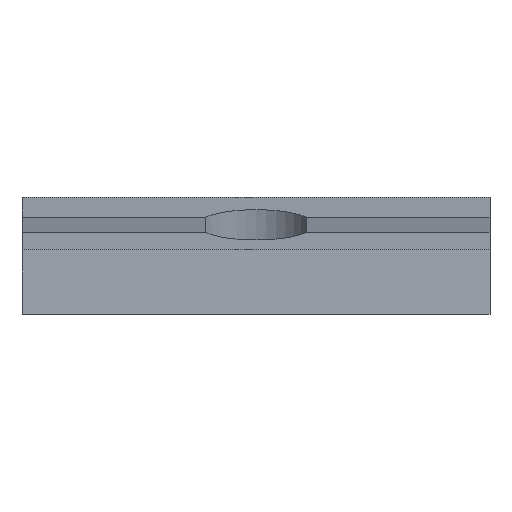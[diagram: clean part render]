
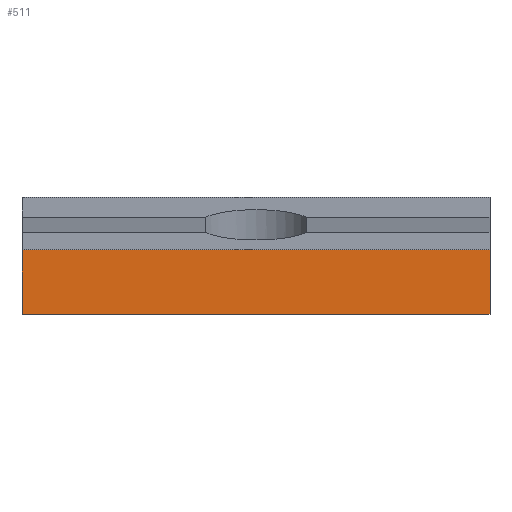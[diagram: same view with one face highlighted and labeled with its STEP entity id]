
A CAD part, left-side view. The second image highlights one B-rep face of the part: STEP entity #511.
In plain terms, the highlighted planar face has unit normal (-1, 0, 0).
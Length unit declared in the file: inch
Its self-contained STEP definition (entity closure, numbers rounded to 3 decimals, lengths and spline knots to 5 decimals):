
#20 = VECTOR ( 'NONE', #440, 39.37008 ) ;
#32 = CARTESIAN_POINT ( 'NONE',  ( 0., 0., 0.41506 ) ) ;
#53 = VECTOR ( 'NONE', #628, 39.37008 ) ;
#67 = VERTEX_POINT ( 'NONE', #32 ) ;
#87 = EDGE_CURVE ( 'NONE', #67, #760, #118, .T. ) ;
#93 = LINE ( 'NONE', #976, #53 ) ;
#118 = LINE ( 'NONE', #377, #238 ) ;
#121 = PLANE ( 'NONE',  #767 ) ;
#149 = EDGE_CURVE ( 'NONE', #988, #943, #295, .T. ) ;
#152 = ORIENTED_EDGE ( 'NONE', *, *, #730, .F. ) ;
#212 = CARTESIAN_POINT ( 'NONE',  ( 0., 1.53305, 0. ) ) ;
#238 = VECTOR ( 'NONE', #720, 39.37008 ) ;
#283 = LINE ( 'NONE', #366, #20 ) ;
#293 = DIRECTION ( 'NONE',  ( 0., 0., 1. ) ) ;
#295 = LINE ( 'NONE', #212, #601 ) ;
#366 = CARTESIAN_POINT ( 'NONE',  ( 0., 0., 0. ) ) ;
#377 = CARTESIAN_POINT ( 'NONE',  ( 0., 0., 0.41506 ) ) ;
#378 = ORIENTED_EDGE ( 'NONE', *, *, #149, .F. ) ;
#440 = DIRECTION ( 'NONE',  ( 0., 0., -1. ) ) ;
#447 = CARTESIAN_POINT ( 'NONE',  ( 0., 3., 0.41506 ) ) ;
#511 = ADVANCED_FACE ( 'NONE', ( #1081 ), #121, .T. ) ;
#578 = CARTESIAN_POINT ( 'NONE',  ( 0., 3., 0. ) ) ;
#601 = VECTOR ( 'NONE', #981, 39.37008 ) ;
#628 = DIRECTION ( 'NONE',  ( 0., 0., 1. ) ) ;
#720 = DIRECTION ( 'NONE',  ( 0., 1., 0. ) ) ;
#730 = EDGE_CURVE ( 'NONE', #67, #988, #283, .T. ) ;
#753 = ORIENTED_EDGE ( 'NONE', *, *, #87, .T. ) ;
#760 = VERTEX_POINT ( 'NONE', #447 ) ;
#767 = AXIS2_PLACEMENT_3D ( 'NONE', #813, #986, #293 ) ;
#800 = CARTESIAN_POINT ( 'NONE',  ( 0., 0., 0. ) ) ;
#806 = EDGE_CURVE ( 'NONE', #943, #760, #93, .T. ) ;
#813 = CARTESIAN_POINT ( 'NONE',  ( 0., 0., 0. ) ) ;
#943 = VERTEX_POINT ( 'NONE', #578 ) ;
#976 = CARTESIAN_POINT ( 'NONE',  ( 0., 3., 0. ) ) ;
#981 = DIRECTION ( 'NONE',  ( 0., 1., 0. ) ) ;
#986 = DIRECTION ( 'NONE',  ( -1., 0., 0. ) ) ;
#988 = VERTEX_POINT ( 'NONE', #800 ) ;
#1065 = EDGE_LOOP ( 'NONE', ( #378, #152, #753, #1124 ) ) ;
#1081 = FACE_OUTER_BOUND ( 'NONE', #1065, .T. ) ;
#1124 = ORIENTED_EDGE ( 'NONE', *, *, #806, .F. ) ;
